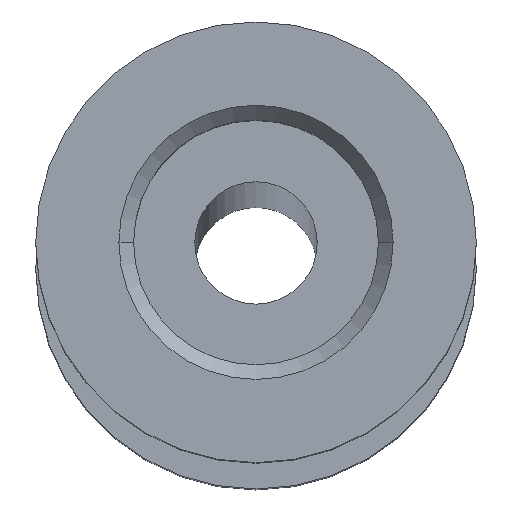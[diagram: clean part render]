
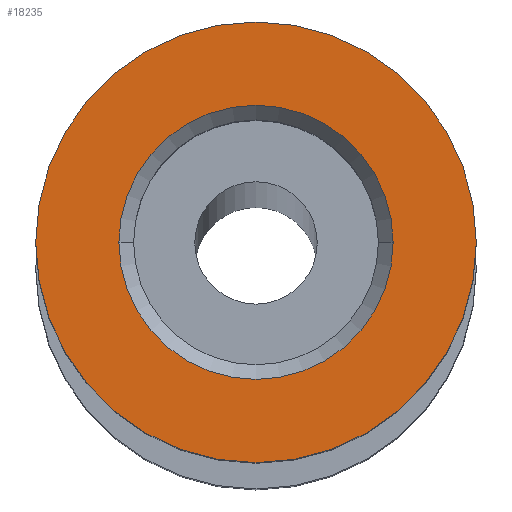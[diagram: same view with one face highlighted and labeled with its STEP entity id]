
A CAD part, top view. The second image highlights one B-rep face of the part: STEP entity #18235.
In plain terms, the highlighted planar face has unit normal (0, 0, 1).
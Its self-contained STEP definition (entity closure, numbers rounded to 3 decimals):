
#81 = DIRECTION ( 'NONE',  ( -1., 0., 0. ) ) ;
#521 = ORIENTED_EDGE ( 'NONE', *, *, #13111, .T. ) ;
#1422 = FACE_OUTER_BOUND ( 'NONE', #13361, .T. ) ;
#1744 = DIRECTION ( 'NONE',  ( 0., 0., -1. ) ) ;
#2406 = ORIENTED_EDGE ( 'NONE', *, *, #4613, .T. ) ;
#2564 = AXIS2_PLACEMENT_3D ( 'NONE', #18756, #13985, #81 ) ;
#3185 = CARTESIAN_POINT ( 'NONE',  ( -160.258, 0., 160.258 ) ) ;
#3304 = EDGE_CURVE ( 'NONE', #3707, #11614, #17750, .T. ) ;
#3707 = VERTEX_POINT ( 'NONE', #5780 ) ;
#3838 = EDGE_LOOP ( 'NONE', ( #2406, #521 ) ) ;
#3842 = FACE_BOUND ( 'NONE', #3838, .T. ) ;
#4394 = AXIS2_PLACEMENT_3D ( 'NONE', #8445, #19444, #8385 ) ;
#4578 = CIRCLE ( 'NONE', #12850, 4.5 ) ;
#4613 = EDGE_CURVE ( 'NONE', #14889, #18366, #20206, .T. ) ;
#4701 = ORIENTED_EDGE ( 'NONE', *, *, #18586, .F. ) ;
#5444 = DIRECTION ( 'NONE',  ( 0., 0., -1. ) ) ;
#5577 = CARTESIAN_POINT ( 'NONE',  ( -164.758, 0., 160.258 ) ) ;
#5709 = AXIS2_PLACEMENT_3D ( 'NONE', #3185, #12746, #17379 ) ;
#5780 = CARTESIAN_POINT ( 'NONE',  ( -155.758, 0., 160.258 ) ) ;
#6069 = ORIENTED_EDGE ( 'NONE', *, *, #3304, .F. ) ;
#6459 = CARTESIAN_POINT ( 'NONE',  ( -160.258, 0., 160.258 ) ) ;
#7024 = DIRECTION ( 'NONE',  ( -1., 0., 0. ) ) ;
#8385 = DIRECTION ( 'NONE',  ( -1., 0., 0. ) ) ;
#8445 = CARTESIAN_POINT ( 'NONE',  ( -160.258, 0., 160.258 ) ) ;
#9003 = AXIS2_PLACEMENT_3D ( 'NONE', #13371, #5444, #7024 ) ;
#9498 = CARTESIAN_POINT ( 'NONE',  ( -163.058, 0., 160.258 ) ) ;
#11614 = VERTEX_POINT ( 'NONE', #5577 ) ;
#12746 = DIRECTION ( 'NONE',  ( 0., 0., -1. ) ) ;
#12850 = AXIS2_PLACEMENT_3D ( 'NONE', #6459, #1744, #15992 ) ;
#13111 = EDGE_CURVE ( 'NONE', #18366, #14889, #20090, .T. ) ;
#13361 = EDGE_LOOP ( 'NONE', ( #4701, #6069 ) ) ;
#13371 = CARTESIAN_POINT ( 'NONE',  ( -160.258, 0., 160.258 ) ) ;
#13985 = DIRECTION ( 'NONE',  ( 0., 0., -1. ) ) ;
#14055 = PLANE ( 'NONE',  #2564 ) ;
#14889 = VERTEX_POINT ( 'NONE', #17793 ) ;
#15992 = DIRECTION ( 'NONE',  ( -1., 0., 0. ) ) ;
#17379 = DIRECTION ( 'NONE',  ( -1., 0., 0. ) ) ;
#17750 = CIRCLE ( 'NONE', #9003, 4.5 ) ;
#17793 = CARTESIAN_POINT ( 'NONE',  ( -157.458, 0., 160.258 ) ) ;
#18235 = ADVANCED_FACE ( 'NONE', ( #3842, #1422 ), #14055, .F. ) ;
#18366 = VERTEX_POINT ( 'NONE', #9498 ) ;
#18586 = EDGE_CURVE ( 'NONE', #11614, #3707, #4578, .T. ) ;
#18756 = CARTESIAN_POINT ( 'NONE',  ( -160.258, 4.5, 160.258 ) ) ;
#19444 = DIRECTION ( 'NONE',  ( 0., 0., -1. ) ) ;
#20090 = CIRCLE ( 'NONE', #4394, 2.8 ) ;
#20206 = CIRCLE ( 'NONE', #5709, 2.8 ) ;
